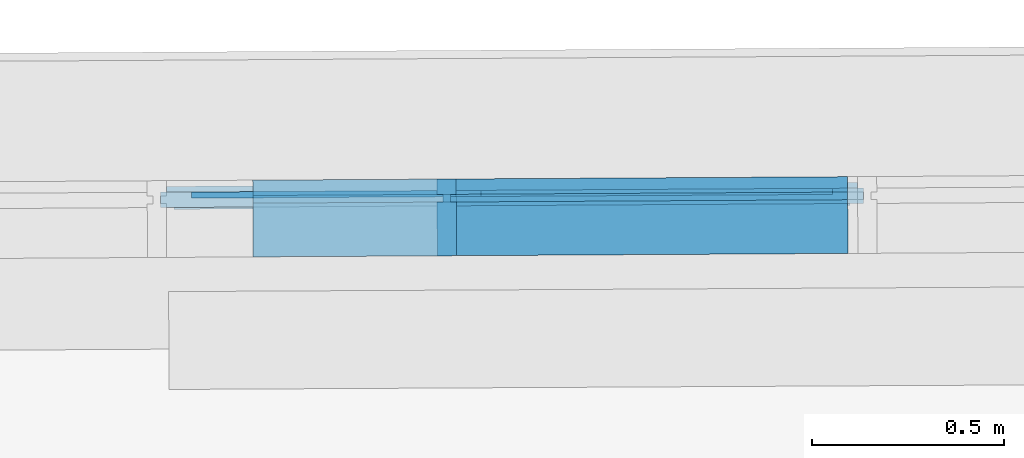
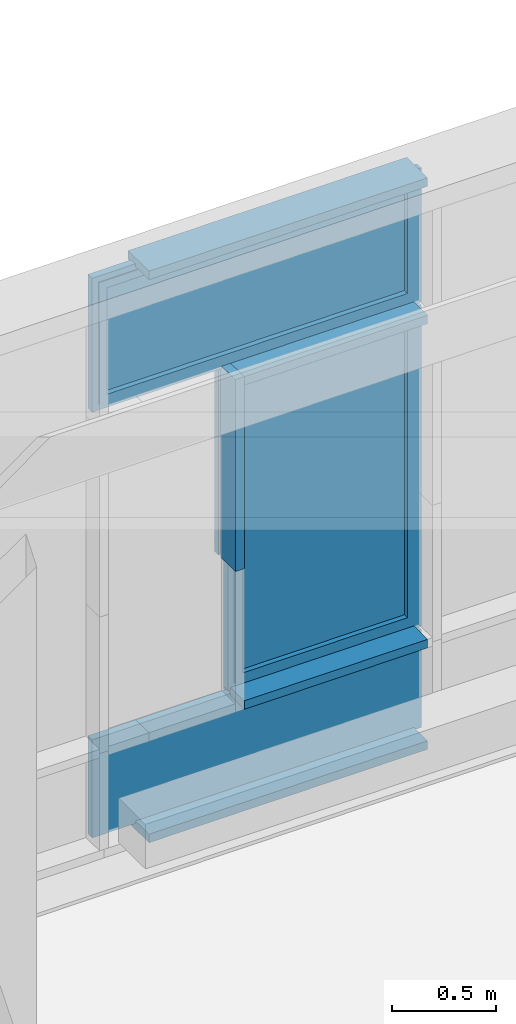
# One storey, part 103 of 158: 10 building element parts, 1 element without a shape of its own.
"""IFC2X3 building model written with IfcOpenShell, lengths in metres."""

from ifc_helpers import new_model, entity, si_unit, converted_unit, derived_unit, money_unit, direction, frame, origin_with_axes, place, context, subcontext, project, spatial, faceted_brep, material, type_object, element, aggregate, save


model = new_model("IFC2X3")

# Units and contexts
model_context = context("Model", 3, precision=1e-05, world=origin_with_axes(), true_north=direction((0.0, 1.0)))
body_context = subcontext(model_context, "Body", "Model", "MODEL_VIEW")
ifc_project = project(units=[si_unit("LENGTHUNIT", "METRE"), si_unit("AREAUNIT", "SQUARE_METRE"), si_unit("VOLUMEUNIT", "CUBIC_METRE"), converted_unit("PLANEANGLEUNIT", "DEGREE", entity("IfcPlaneAngleMeasure", 0.0174532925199), si_unit("PLANEANGLEUNIT", "RADIAN"), dimensions=[0, 0, 0, 0, 0, 0, 0]), money_unit("EUR"), converted_unit("TIMEUNIT", "Year", entity("IfcTimeMeasure", 31556926.0), si_unit("TIMEUNIT", "SECOND"), dimensions=[0, 0, 1, 0, 0, 0, 0]), si_unit("MASSUNIT", "GRAM", prefix="KILO"), si_unit("THERMODYNAMICTEMPERATUREUNIT", "DEGREE_CELSIUS"), si_unit("LUMINOUSINTENSITYUNIT", "LUMEN"), si_unit("ENERGYUNIT", "JOULE", prefix="MEGA"), derived_unit("THERMALCONDUCTANCEUNIT", [(si_unit("POWERUNIT", "WATT"), 1), (si_unit("LENGTHUNIT", "METRE"), -1), (si_unit("THERMODYNAMICTEMPERATUREUNIT", "KELVIN"), -1)]), derived_unit("SPECIFICHEATCAPACITYUNIT", [(si_unit("ENERGYUNIT", "JOULE"), 1), (si_unit("MASSUNIT", "GRAM", prefix="KILO"), -1), (si_unit("THERMODYNAMICTEMPERATUREUNIT", "KELVIN"), -1)]), derived_unit("MASSDENSITYUNIT", [(si_unit("MASSUNIT", "GRAM", prefix="KILO"), 1), (si_unit("VOLUMEUNIT", "CUBIC_METRE"), -1)])], contexts=[model_context])

# Site, building, storey
site_placement = place(None, origin_with_axes())
site = spatial("IfcSite", under=ifc_project, at=site_placement, Name="Gelände", CompositionType="ELEMENT")
building_placement = place(site_placement, origin_with_axes())
building = spatial("IfcBuilding", under=site, at=building_placement, Name="Gebäude", CompositionType="ELEMENT")
storey_placement = place(building_placement, origin_with_axes())
storey = spatial("IfcBuildingStorey", under=building, at=storey_placement, Name="ERDGESCHOSS", CompositionType="ELEMENT", Elevation=0.0)

# Proxy, building element parts
building_element_proxy_type = type_object("IfcBuildingElementProxyType", Name="Fassadentyp", PredefinedType="NOTDEFINED")
proxy_placement = place(storey_placement, frame((-22.8016333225, 53.9701805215, 1.34043904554), z_axis=(0.0, 0.0, 1.0), x_axis=(1.0, 0.0, 0.0)))
proxy = element("IfcBuildingElementProxy", 1, at=proxy_placement, inside=storey, type_object=building_element_proxy_type, Name="Fassade-002")
ifc_material_1 = material(Name="53_Metall, Aluminium")
building_element_part_1_placement = place(proxy_placement, origin_with_axes())
building_element_part_1 = element("IfcBuildingElementPart", 2, at=building_element_part_1_placement, material=ifc_material_1, Name="53_Metall, Aluminium", context=body_context, shape_type="Brep", body=[
    faceted_brep([(-0.319305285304, 0.0281384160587, 2.54500002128), (-2.12056874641, 0.0176339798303, 2.54500002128), (-2.12059790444, 0.0226338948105, 2.54500002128), (-0.319334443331, 0.033138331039, 2.54500002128), (-0.364304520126, 0.0278759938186, 2.59000002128), (-2.07556951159, 0.0178964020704, 2.59000002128), (-2.07559866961, 0.0228963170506, 2.59000002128), (-0.364333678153, 0.0328759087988, 2.59000002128)], [[[0, 1, 2, 3]], [[0, 4, 5, 1]], [[1, 5, 6, 2]], [[3, 2, 6, 7]], [[4, 0, 3, 7]], [[5, 4, 7, 6]]]),
    faceted_brep([(-2.12056874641, 0.0176339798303, 2.54500002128), (-2.12056874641, 0.0176339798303, 3.29999989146), (-2.12059790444, 0.0226338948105, 3.29999989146), (-2.12059790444, 0.0226338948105, 2.54500002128), (-2.07556951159, 0.0178964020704, 2.59000002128), (-2.07556951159, 0.0178964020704, 3.25499989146), (-2.07559866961, 0.0228963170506, 3.25499989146), (-2.07559866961, 0.0228963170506, 2.59000002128)], [[[0, 1, 2, 3]], [[0, 4, 5, 1]], [[1, 5, 6, 2]], [[3, 2, 6, 7]], [[4, 0, 3, 7]], [[5, 4, 7, 6]]]),
    faceted_brep([(-0.319305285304, 0.0281384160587, 3.29999989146), (-0.364304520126, 0.0278759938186, 3.25499989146), (-0.364333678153, 0.0328759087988, 3.25499989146), (-0.319334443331, 0.033138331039, 3.29999989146), (-2.12056874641, 0.0176339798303, 3.29999989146), (-2.07556951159, 0.0178964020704, 3.25499989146), (-2.07559866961, 0.0228963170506, 3.25499989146), (-2.12059790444, 0.0226338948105, 3.29999989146)], [[[0, 1, 2, 3]], [[0, 4, 5, 1]], [[1, 5, 6, 2]], [[3, 2, 6, 7]], [[4, 0, 3, 7]], [[5, 4, 7, 6]]]),
    faceted_brep([(-0.319305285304, 0.0281384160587, 2.54500002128), (-0.364304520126, 0.0278759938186, 2.59000002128), (-0.364333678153, 0.0328759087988, 2.59000002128), (-0.319334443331, 0.033138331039, 2.54500002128), (-0.319305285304, 0.0281384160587, 3.29999989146), (-0.364304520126, 0.0278759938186, 3.25499989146), (-0.364333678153, 0.0328759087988, 3.25499989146), (-0.319334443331, 0.033138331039, 3.29999989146)], [[[0, 1, 2, 3]], [[0, 4, 5, 1]], [[1, 5, 6, 2]], [[3, 2, 6, 7]], [[4, 0, 3, 7]], [[5, 4, 7, 6]]]),
    faceted_brep([(-0.319013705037, -0.0218607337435, 2.54500002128), (-2.12027716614, -0.032365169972, 2.54500002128), (-2.12056874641, 0.0176339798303, 2.54500002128), (-0.319305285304, 0.0281384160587, 2.54500002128), (-0.339013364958, -0.0219773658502, 2.56500002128), (-2.10027750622, -0.0322485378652, 2.56500002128), (-2.10056908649, 0.017750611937, 2.56500002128), (-0.339304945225, 0.028021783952, 2.56500002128)], [[[0, 1, 2, 3]], [[0, 4, 5, 1]], [[1, 5, 6, 2]], [[3, 2, 6, 7]], [[4, 0, 3, 7]], [[5, 4, 7, 6]]]),
    faceted_brep([(-2.12027716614, -0.032365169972, 2.54500002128), (-2.12027716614, -0.032365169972, 3.29999989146), (-2.12056874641, 0.0176339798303, 3.29999989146), (-2.12056874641, 0.0176339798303, 2.54500002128), (-2.10027750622, -0.0322485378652, 2.56500002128), (-2.10027750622, -0.0322485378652, 3.27999989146), (-2.10056908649, 0.017750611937, 3.27999989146), (-2.10056908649, 0.017750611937, 2.56500002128)], [[[0, 1, 2, 3]], [[0, 4, 5, 1]], [[1, 5, 6, 2]], [[3, 2, 6, 7]], [[4, 0, 3, 7]], [[5, 4, 7, 6]]]),
    faceted_brep([(-0.319013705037, -0.0218607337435, 3.29999989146), (-0.339013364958, -0.0219773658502, 3.27999989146), (-0.339304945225, 0.028021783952, 3.27999989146), (-0.319305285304, 0.0281384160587, 3.29999989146), (-2.12027716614, -0.032365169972, 3.29999989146), (-2.10027750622, -0.0322485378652, 3.27999989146), (-2.10056908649, 0.017750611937, 3.27999989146), (-2.12056874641, 0.0176339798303, 3.29999989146)], [[[0, 1, 2, 3]], [[0, 4, 5, 1]], [[1, 5, 6, 2]], [[3, 2, 6, 7]], [[4, 0, 3, 7]], [[5, 4, 7, 6]]]),
    faceted_brep([(-0.319013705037, -0.0218607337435, 2.54500002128), (-0.339013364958, -0.0219773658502, 2.56500002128), (-0.339304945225, 0.028021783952, 2.56500002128), (-0.319305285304, 0.0281384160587, 2.54500002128), (-0.319013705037, -0.0218607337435, 3.29999989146), (-0.339013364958, -0.0219773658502, 3.27999989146), (-0.339304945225, 0.028021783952, 3.27999989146), (-0.319305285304, 0.0281384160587, 3.29999989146)], [[[0, 1, 2, 3]], [[0, 4, 5, 1]], [[1, 5, 6, 2]], [[3, 2, 6, 7]], [[4, 0, 3, 7]], [[5, 4, 7, 6]]]),
    faceted_brep([(-0.304013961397, -0.0217732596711, 2.53000002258), (-2.13527690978, -0.0324526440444, 2.53000002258), (-2.135510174, 0.00754667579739, 2.53000002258), (-0.30424722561, 0.0182260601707, 2.53000002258), (-0.319013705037, -0.0218607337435, 2.54500002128), (-2.12027716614, -0.032365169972, 2.54500002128), (-2.12051043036, 0.00763414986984, 2.54500002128), (-0.319246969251, 0.0181385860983, 2.54500002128)], [[[0, 1, 2, 3]], [[0, 4, 5, 1]], [[1, 5, 6, 2]], [[3, 2, 6, 7]], [[4, 0, 3, 7]], [[5, 4, 7, 6]]]),
    faceted_brep([(-2.13527690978, -0.0324526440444, 2.53000002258), (-2.13527690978, -0.0324526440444, 3.31499989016), (-2.135510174, 0.00754667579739, 3.31499989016), (-2.135510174, 0.00754667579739, 2.53000002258), (-2.12027716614, -0.032365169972, 2.54500002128), (-2.12027716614, -0.032365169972, 3.29999989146), (-2.12051043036, 0.00763414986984, 3.29999989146), (-2.12051043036, 0.00763414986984, 2.54500002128)], [[[0, 1, 2, 3]], [[0, 4, 5, 1]], [[1, 5, 6, 2]], [[3, 2, 6, 7]], [[4, 0, 3, 7]], [[5, 4, 7, 6]]]),
    faceted_brep([(-2.13527690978, -0.0324526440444, 3.31499989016), (-0.304013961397, -0.0217732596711, 3.31499989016), (-0.30424722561, 0.0182260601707, 3.31499989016), (-2.135510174, 0.00754667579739, 3.31499989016), (-2.12027716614, -0.032365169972, 3.29999989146), (-0.319013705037, -0.0218607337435, 3.29999989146), (-0.319246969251, 0.0181385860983, 3.29999989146), (-2.12051043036, 0.00763414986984, 3.29999989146)], [[[0, 1, 2, 3]], [[0, 4, 5, 1]], [[1, 5, 6, 2]], [[3, 2, 6, 7]], [[4, 0, 3, 7]], [[5, 4, 7, 6]]]),
    faceted_brep([(-0.304013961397, -0.0217732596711, 3.31499989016), (-0.304013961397, -0.0217732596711, 2.53000002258), (-0.30424722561, 0.0182260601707, 2.53000002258), (-0.30424722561, 0.0182260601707, 3.31499989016), (-0.319013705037, -0.0218607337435, 3.29999989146), (-0.319013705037, -0.0218607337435, 2.54500002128), (-0.319246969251, 0.0181385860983, 2.54500002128), (-0.319246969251, 0.0181385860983, 3.29999989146)], [[[0, 1, 2, 3]], [[0, 4, 5, 1]], [[1, 5, 6, 2]], [[3, 2, 6, 7]], [[4, 0, 3, 7]], [[5, 4, 7, 6]]]),
    faceted_brep([(-0.384304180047, 0.0277593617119, 2.61000002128), (-0.383983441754, -0.0272397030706, 2.61000002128), (-0.383983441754, -0.0272397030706, 3.23499989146), (-0.384304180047, 0.0277593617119, 3.23499989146), (-0.339304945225, 0.028021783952, 2.56500002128), (-0.338984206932, -0.0269772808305, 2.56500002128), (-0.338984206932, -0.0269772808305, 3.27999989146), (-0.339304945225, 0.028021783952, 3.27999989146)], [[[0, 1, 2, 3]], [[4, 5, 1, 0]], [[1, 5, 6, 2]], [[3, 2, 6, 7]], [[0, 3, 7, 4]], [[7, 6, 5, 4]]]),
    faceted_brep([(-2.10056908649, 0.017750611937, 2.56500002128), (-2.1002483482, -0.0372484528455, 2.56500002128), (-2.1002483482, -0.0372484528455, 3.27999989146), (-2.10056908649, 0.017750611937, 3.27999989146), (-2.05556985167, 0.0180130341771, 2.61000002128), (-2.05524911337, -0.0369860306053, 2.61000002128), (-2.05524911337, -0.0369860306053, 3.23499989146), (-2.05556985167, 0.0180130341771, 3.23499989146)], [[[0, 1, 2, 3]], [[4, 5, 1, 0]], [[1, 5, 6, 2]], [[3, 2, 6, 7]], [[0, 3, 7, 4]], [[7, 6, 5, 4]]]),
    faceted_brep([(-2.10056908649, 0.017750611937, 2.56500002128), (-2.1002483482, -0.0372484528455, 2.56500002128), (-2.05524911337, -0.0369860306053, 2.61000002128), (-2.05556985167, 0.0180130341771, 2.61000002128), (-0.339304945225, 0.028021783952, 2.56500002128), (-0.338984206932, -0.0269772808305, 2.56500002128), (-0.383983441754, -0.0272397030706, 2.61000002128), (-0.384304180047, 0.0277593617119, 2.61000002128)], [[[0, 1, 2, 3]], [[4, 5, 1, 0]], [[1, 5, 6, 2]], [[3, 2, 6, 7]], [[0, 3, 7, 4]], [[7, 6, 5, 4]]]),
    faceted_brep([(-0.339304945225, 0.028021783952, 3.27999989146), (-0.338984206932, -0.0269772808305, 3.27999989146), (-0.383983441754, -0.0272397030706, 3.23499989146), (-0.384304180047, 0.0277593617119, 3.23499989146), (-2.10056908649, 0.017750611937, 3.27999989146), (-2.1002483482, -0.0372484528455, 3.27999989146), (-2.05524911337, -0.0369860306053, 3.23499989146), (-2.05556985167, 0.0180130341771, 3.23499989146)], [[[0, 1, 2, 3]], [[4, 5, 1, 0]], [[1, 5, 6, 2]], [[3, 2, 6, 7]], [[0, 3, 7, 4]], [[7, 6, 5, 4]]]),
])
ifc_material_2 = material(Name="45_Glas, Normalglas")
building_element_part_2_placement = place(proxy_placement, origin_with_axes())
building_element_part_2 = element("IfcBuildingElementPart", 3, at=building_element_part_2_placement, material=ifc_material_2, Name="45_Glas, Normalglas", context=body_context, shape_type="Brep", body=[
    faceted_brep([(-0.384245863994, 0.0177595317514, 2.61000002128), (-0.384152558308, 0.00175980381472, 2.61000002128), (-2.05541822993, -0.00798652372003, 2.61000002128), (-2.05551153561, 0.0080132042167, 2.61000002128), (-0.384245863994, 0.0177595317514, 3.23499989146), (-0.384152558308, 0.00175980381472, 3.23499989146), (-2.05541822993, -0.00798652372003, 3.23499989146), (-2.05551153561, 0.0080132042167, 3.23499989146)], [[[0, 1, 2, 3]], [[4, 5, 1, 0]], [[1, 5, 6, 2]], [[3, 2, 6, 7]], [[0, 3, 7, 4]], [[7, 6, 5, 4]]]),
])
building_element_part_3_placement = place(proxy_placement, origin_with_axes())
building_element_part_3 = element("IfcBuildingElementPart", 4, at=building_element_part_3_placement, material=ifc_material_2, Name="45_Glas, Normalglas", context=body_context, shape_type="Brep", body=[
    faceted_brep([(-2.13527690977, -0.0324526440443, 0.610000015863), (-1.89492793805, -0.0310509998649, 0.610000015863), (-1.89516120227, 0.00894831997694, 0.610000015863), (-2.13551017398, 0.00754667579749, 0.610000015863), (-2.13527690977, -0.0324526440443, 0.034999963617), (-1.89492793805, -0.0310509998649, 0.034999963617), (-0.344954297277, -0.022012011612, 0.034999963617), (-0.30401395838, -0.0217732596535, 0.034999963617), (-0.30401395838, -0.0217732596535, 0.610000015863), (-0.344954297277, -0.022012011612, 0.610000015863), (-1.38989815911, -0.0281058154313, 0.610000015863), (-1.39013142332, 0.0118935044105, 0.610000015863), (-0.34518756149, 0.0179873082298, 0.610000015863), (-0.304247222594, 0.0182260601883, 0.610000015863), (-0.304247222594, 0.0182260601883, 0.034999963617), (-0.34518756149, 0.0179873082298, 0.034999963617), (-1.89516120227, 0.00894831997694, 0.034999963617), (-2.13551017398, 0.00754667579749, 0.034999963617)], [[[0, 1, 2, 3]], [[0, 4, 5, 6, 7, 8, 9, 10, 1]], [[1, 10, 11, 2]], [[3, 2, 11, 12, 13, 14, 15, 16, 17]], [[4, 0, 3, 17]], [[5, 4, 17, 16]], [[6, 5, 16, 15]], [[7, 6, 15, 14]], [[8, 7, 14, 13]], [[9, 8, 13, 12]], [[10, 9, 12, 11]]]),
])
building_element_part_4_placement = place(proxy_placement, origin_with_axes())
building_element_part_4 = element("IfcBuildingElementPart", 5, at=building_element_part_4_placement, material=ifc_material_1, Name="53_Metall, Aluminium", context=body_context, shape_type="Brep", body=[
    faceted_brep([(-0.319305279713, 0.0281384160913, 0.64500002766), (-1.36519017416, 0.0220391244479, 0.64500002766), (-1.36521933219, 0.0270390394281, 0.64500002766), (-0.31933443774, 0.0331383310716, 0.64500002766), (-0.364304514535, 0.0278759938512, 0.69000002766), (-1.32019093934, 0.022301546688, 0.69000002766), (-1.32022009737, 0.0273014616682, 0.69000002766), (-0.364333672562, 0.0328759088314, 0.69000002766)], [[[0, 1, 2, 3]], [[0, 4, 5, 1]], [[1, 5, 6, 2]], [[3, 2, 6, 7]], [[4, 0, 3, 7]], [[5, 4, 7, 6]]]),
    faceted_brep([(-1.36519017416, 0.0220391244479, 0.64500002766), (-1.36519017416, 0.0220391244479, 2.49500000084), (-1.36521933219, 0.0270390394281, 2.49500000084), (-1.36521933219, 0.0270390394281, 0.64500002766), (-1.32019093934, 0.022301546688, 0.69000002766), (-1.32019093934, 0.022301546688, 2.45000000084), (-1.32022009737, 0.0273014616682, 2.45000000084), (-1.32022009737, 0.0273014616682, 0.69000002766)], [[[0, 1, 2, 3]], [[0, 4, 5, 1]], [[1, 5, 6, 2]], [[3, 2, 6, 7]], [[4, 0, 3, 7]], [[5, 4, 7, 6]]]),
    faceted_brep([(-0.319305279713, 0.0281384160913, 2.49500000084), (-0.364304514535, 0.0278759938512, 2.45000000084), (-0.364333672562, 0.0328759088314, 2.45000000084), (-0.31933443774, 0.0331383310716, 2.49500000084), (-1.36519017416, 0.0220391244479, 2.49500000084), (-1.32019093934, 0.022301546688, 2.45000000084), (-1.32022009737, 0.0273014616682, 2.45000000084), (-1.36521933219, 0.0270390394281, 2.49500000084)], [[[0, 1, 2, 3]], [[0, 4, 5, 1]], [[1, 5, 6, 2]], [[3, 2, 6, 7]], [[4, 0, 3, 7]], [[5, 4, 7, 6]]]),
    faceted_brep([(-0.319305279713, 0.0281384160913, 0.64500002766), (-0.364304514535, 0.0278759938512, 0.69000002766), (-0.364333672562, 0.0328759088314, 0.69000002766), (-0.31933443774, 0.0331383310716, 0.64500002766), (-0.319305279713, 0.0281384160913, 2.49500000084), (-0.364304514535, 0.0278759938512, 2.45000000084), (-0.364333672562, 0.0328759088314, 2.45000000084), (-0.31933443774, 0.0331383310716, 2.49500000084)], [[[0, 1, 2, 3]], [[0, 4, 5, 1]], [[1, 5, 6, 2]], [[3, 2, 6, 7]], [[4, 0, 3, 7]], [[5, 4, 7, 6]]]),
    faceted_brep([(-0.319013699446, -0.0218607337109, 0.64500002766), (-1.3648985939, -0.0279600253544, 0.64500002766), (-1.36519017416, 0.0220391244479, 0.64500002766), (-0.319305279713, 0.0281384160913, 0.64500002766), (-0.339013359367, -0.0219773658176, 0.66500002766), (-1.34489893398, -0.0278433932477, 0.66500002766), (-1.34519051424, 0.0221557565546, 0.66500002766), (-0.339304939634, 0.0280217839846, 0.66500002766)], [[[0, 1, 2, 3]], [[0, 4, 5, 1]], [[1, 5, 6, 2]], [[3, 2, 6, 7]], [[4, 0, 3, 7]], [[5, 4, 7, 6]]]),
    faceted_brep([(-1.3648985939, -0.0279600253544, 0.64500002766), (-1.3648985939, -0.0279600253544, 2.49500000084), (-1.36519017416, 0.0220391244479, 2.49500000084), (-1.36519017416, 0.0220391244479, 0.64500002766), (-1.34489893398, -0.0278433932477, 0.66500002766), (-1.34489893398, -0.0278433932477, 2.47500000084), (-1.34519051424, 0.0221557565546, 2.47500000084), (-1.34519051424, 0.0221557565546, 0.66500002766)], [[[0, 1, 2, 3]], [[0, 4, 5, 1]], [[1, 5, 6, 2]], [[3, 2, 6, 7]], [[4, 0, 3, 7]], [[5, 4, 7, 6]]]),
    faceted_brep([(-0.319013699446, -0.0218607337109, 2.49500000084), (-0.339013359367, -0.0219773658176, 2.47500000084), (-0.339304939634, 0.0280217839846, 2.47500000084), (-0.319305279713, 0.0281384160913, 2.49500000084), (-1.3648985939, -0.0279600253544, 2.49500000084), (-1.34489893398, -0.0278433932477, 2.47500000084), (-1.34519051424, 0.0221557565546, 2.47500000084), (-1.36519017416, 0.0220391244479, 2.49500000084)], [[[0, 1, 2, 3]], [[0, 4, 5, 1]], [[1, 5, 6, 2]], [[3, 2, 6, 7]], [[4, 0, 3, 7]], [[5, 4, 7, 6]]]),
    faceted_brep([(-0.319013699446, -0.0218607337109, 0.64500002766), (-0.339013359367, -0.0219773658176, 0.66500002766), (-0.339304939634, 0.0280217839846, 0.66500002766), (-0.319305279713, 0.0281384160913, 0.64500002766), (-0.319013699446, -0.0218607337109, 2.49500000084), (-0.339013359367, -0.0219773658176, 2.47500000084), (-0.339304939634, 0.0280217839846, 2.47500000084), (-0.319305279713, 0.0281384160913, 2.49500000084)], [[[0, 1, 2, 3]], [[0, 4, 5, 1]], [[1, 5, 6, 2]], [[3, 2, 6, 7]], [[4, 0, 3, 7]], [[5, 4, 7, 6]]]),
    faceted_brep([(-0.304013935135, -0.0217732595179, 0.630000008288), (-1.3798983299, -0.0280474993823, 0.630000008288), (-1.38013159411, 0.0119518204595, 0.630000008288), (-0.304247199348, 0.0182260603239, 0.630000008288), (-0.319013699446, -0.0218607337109, 0.64500002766), (-1.3648985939, -0.0279600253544, 0.64500002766), (-1.36513185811, 0.0120392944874, 0.64500002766), (-0.31924696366, 0.0181385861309, 0.64500002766)], [[[0, 1, 2, 3]], [[0, 4, 5, 1]], [[1, 5, 6, 2]], [[3, 2, 6, 7]], [[4, 0, 3, 7]], [[5, 4, 7, 6]]]),
    faceted_brep([(-1.3798983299, -0.0280474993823, 0.630000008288), (-1.3798983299, -0.0280474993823, 2.51000002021), (-1.38013159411, 0.0119518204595, 2.51000002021), (-1.38013159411, 0.0119518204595, 0.630000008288), (-1.3648985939, -0.0279600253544, 0.64500002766), (-1.3648985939, -0.0279600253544, 2.49500000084), (-1.36513185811, 0.0120392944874, 2.49500000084), (-1.36513185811, 0.0120392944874, 0.64500002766)], [[[0, 1, 2, 3]], [[0, 4, 5, 1]], [[1, 5, 6, 2]], [[3, 2, 6, 7]], [[4, 0, 3, 7]], [[5, 4, 7, 6]]]),
    faceted_brep([(-1.3798983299, -0.0280474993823, 2.51000002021), (-0.304013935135, -0.0217732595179, 2.51000002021), (-0.304247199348, 0.0182260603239, 2.51000002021), (-1.38013159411, 0.0119518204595, 2.51000002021), (-1.3648985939, -0.0279600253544, 2.49500000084), (-0.319013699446, -0.0218607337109, 2.49500000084), (-0.31924696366, 0.0181385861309, 2.49500000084), (-1.36513185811, 0.0120392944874, 2.49500000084)], [[[0, 1, 2, 3]], [[0, 4, 5, 1]], [[1, 5, 6, 2]], [[3, 2, 6, 7]], [[4, 0, 3, 7]], [[5, 4, 7, 6]]]),
    faceted_brep([(-0.304013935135, -0.0217732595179, 2.51000002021), (-0.304013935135, -0.0217732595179, 0.630000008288), (-0.304247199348, 0.0182260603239, 0.630000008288), (-0.304247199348, 0.0182260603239, 2.51000002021), (-0.319013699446, -0.0218607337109, 2.49500000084), (-0.319013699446, -0.0218607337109, 0.64500002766), (-0.31924696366, 0.0181385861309, 0.64500002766), (-0.31924696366, 0.0181385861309, 2.49500000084)], [[[0, 1, 2, 3]], [[0, 4, 5, 1]], [[1, 5, 6, 2]], [[3, 2, 6, 7]], [[4, 0, 3, 7]], [[5, 4, 7, 6]]]),
    faceted_brep([(-0.384304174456, 0.0277593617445, 0.71000002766), (-0.383983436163, -0.027239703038, 0.71000002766), (-0.383983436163, -0.027239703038, 2.43000000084), (-0.384304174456, 0.0277593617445, 2.43000000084), (-0.339304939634, 0.0280217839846, 0.66500002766), (-0.338984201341, -0.0269772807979, 0.66500002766), (-0.338984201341, -0.0269772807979, 2.47500000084), (-0.339304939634, 0.0280217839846, 2.47500000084)], [[[0, 1, 2, 3]], [[4, 5, 1, 0]], [[1, 5, 6, 2]], [[3, 2, 6, 7]], [[0, 3, 7, 4]], [[7, 6, 5, 4]]]),
    faceted_brep([(-1.34519051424, 0.0221557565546, 0.66500002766), (-1.34486977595, -0.0328433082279, 0.66500002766), (-1.34486977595, -0.0328433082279, 2.47500000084), (-1.34519051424, 0.0221557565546, 2.47500000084), (-1.30019127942, 0.0224181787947, 0.71000002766), (-1.29987054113, -0.0325808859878, 0.71000002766), (-1.29987054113, -0.0325808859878, 2.43000000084), (-1.30019127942, 0.0224181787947, 2.43000000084)], [[[0, 1, 2, 3]], [[4, 5, 1, 0]], [[1, 5, 6, 2]], [[3, 2, 6, 7]], [[0, 3, 7, 4]], [[7, 6, 5, 4]]]),
    faceted_brep([(-1.34519051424, 0.0221557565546, 0.66500002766), (-1.34486977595, -0.0328433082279, 0.66500002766), (-1.29987054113, -0.0325808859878, 0.71000002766), (-1.30019127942, 0.0224181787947, 0.71000002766), (-0.339304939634, 0.0280217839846, 0.66500002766), (-0.338984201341, -0.0269772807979, 0.66500002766), (-0.383983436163, -0.027239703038, 0.71000002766), (-0.384304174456, 0.0277593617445, 0.71000002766)], [[[0, 1, 2, 3]], [[4, 5, 1, 0]], [[1, 5, 6, 2]], [[3, 2, 6, 7]], [[0, 3, 7, 4]], [[7, 6, 5, 4]]]),
    faceted_brep([(-0.339304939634, 0.0280217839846, 2.47500000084), (-0.338984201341, -0.0269772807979, 2.47500000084), (-0.383983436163, -0.027239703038, 2.43000000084), (-0.384304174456, 0.0277593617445, 2.43000000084), (-1.34519051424, 0.0221557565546, 2.47500000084), (-1.34486977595, -0.0328433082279, 2.47500000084), (-1.29987054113, -0.0325808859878, 2.43000000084), (-1.30019127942, 0.0224181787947, 2.43000000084)], [[[0, 1, 2, 3]], [[4, 5, 1, 0]], [[1, 5, 6, 2]], [[3, 2, 6, 7]], [[0, 3, 7, 4]], [[7, 6, 5, 4]]]),
])
building_element_part_5_placement = place(proxy_placement, origin_with_axes())
building_element_part_5 = element("IfcBuildingElementPart", 6, at=building_element_part_5_placement, material=ifc_material_2, Name="45_Glas, Normalglas", context=body_context, shape_type="Brep", body=[
    faceted_brep([(-0.384245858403, 0.017759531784, 0.71000002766), (-0.384152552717, 0.00175980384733, 0.71000002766), (-1.30003965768, -0.00358137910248, 0.71000002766), (-1.30013296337, 0.0124183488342, 0.71000002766), (-0.384245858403, 0.017759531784, 2.43000000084), (-0.384152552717, 0.00175980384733, 2.43000000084), (-1.30003965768, -0.00358137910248, 2.43000000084), (-1.30013296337, 0.0124183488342, 2.43000000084)], [[[0, 1, 2, 3]], [[4, 5, 1, 0]], [[1, 5, 6, 2]], [[3, 2, 6, 7]], [[0, 3, 7, 4]], [[7, 6, 5, 4]]]),
])
building_element_part_6_placement = place(proxy_placement, origin_with_axes())
building_element_part_6 = element("IfcBuildingElementPart", 7, at=building_element_part_6_placement, material=ifc_material_1, Name="53_Metall, Aluminium", context=body_context, shape_type="Brep", body=[
    faceted_brep([(-1.89498624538, -0.0210511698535, 0.0349999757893), (-1.89510287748, -0.00105150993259, 0.0349999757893), (-1.89510287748, -0.00105150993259, 0.0499999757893), (-1.8953361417, 0.0389478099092, 0.0499999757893), (-1.8953361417, 0.0389478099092, -2.42107287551e-08), (-1.89416982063, -0.1610487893, -2.42107287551e-08), (-1.89416982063, -0.1610487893, 0.0499999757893), (-1.89498624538, -0.0210511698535, 0.0499999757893), (-0.345012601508, -0.0120121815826, 0.0349999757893), (-0.345129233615, 0.00798747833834, 0.0349999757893), (-0.345129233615, 0.00798747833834, 0.0499999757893), (-0.345362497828, 0.0479867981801, 0.0499999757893), (-0.345362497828, 0.0479867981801, -2.42107287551e-08), (-0.344196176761, -0.152009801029, -2.42107287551e-08), (-0.344196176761, -0.152009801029, 0.0499999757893), (-0.345012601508, -0.0120121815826, 0.0499999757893)], [[[0, 1, 2, 3, 4, 5, 6, 7]], [[1, 0, 8, 9]], [[10, 2, 1, 9]], [[2, 10, 11, 3]], [[12, 4, 3, 11]], [[13, 5, 4, 12]], [[14, 6, 5, 13]], [[15, 7, 6, 14]], [[0, 7, 15, 8]], [[8, 15, 14, 13, 12, 11, 10, 9]]]),
])
building_element_part_7_placement = place(proxy_placement, origin_with_axes())
building_element_part_7 = element("IfcBuildingElementPart", 8, at=building_element_part_7_placement, material=ifc_material_1, Name="53_Metall, Aluminium", context=body_context, shape_type="Brep", body=[
    faceted_brep([(-1.89498624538, -0.0210511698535, 3.31499988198), (-1.89498624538, -0.0210511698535, 3.29999988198), (-1.89416982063, -0.1610487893, 3.29999988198), (-1.89416982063, -0.1610487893, 3.34999988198), (-1.8953361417, 0.0389478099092, 3.34999988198), (-1.8953361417, 0.0389478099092, 3.29999988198), (-1.89510287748, -0.00105150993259, 3.29999988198), (-1.89510287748, -0.00105150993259, 3.31499988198), (-0.345012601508, -0.0120121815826, 3.31499988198), (-0.345012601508, -0.0120121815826, 3.29999988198), (-0.344196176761, -0.152009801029, 3.29999988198), (-0.344196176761, -0.152009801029, 3.34999988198), (-0.345362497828, 0.0479867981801, 3.34999988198), (-0.345362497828, 0.0479867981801, 3.29999988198), (-0.345129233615, 0.00798747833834, 3.29999988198), (-0.345129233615, 0.00798747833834, 3.31499988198)], [[[0, 1, 2, 3, 4, 5, 6, 7]], [[0, 8, 9, 1]], [[9, 10, 2, 1]], [[10, 11, 3, 2]], [[11, 12, 4, 3]], [[12, 13, 5, 4]], [[6, 5, 13, 14]], [[14, 15, 7, 6]], [[7, 15, 8, 0]], [[8, 15, 14, 13, 12, 11, 10, 9]]]),
])
building_element_part_8_placement = place(proxy_placement, origin_with_axes())
building_element_part_8 = element("IfcBuildingElementPart", 9, at=building_element_part_8_placement, material=ifc_material_1, Name="53_Metall, Aluminium", context=body_context, shape_type="Brep", body=[
    faceted_brep([(-1.39995629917, -0.0181643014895, 2.54500001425), (-1.41495604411, -0.0182517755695, 2.54500001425), (-1.41413961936, -0.158249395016, 2.54500001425), (-1.36414046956, -0.157957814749, 2.54500001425), (-1.36495689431, -0.0179601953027, 2.54500001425), (-1.37995663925, -0.0180476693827, 2.54500001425), (-1.38007327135, 0.00195199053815, 2.54500001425), (-1.36507352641, 0.00203946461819, 2.54500001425), (-1.36530679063, 0.04203878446, 2.54500001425), (-1.41530594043, 0.0417472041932, 2.54500001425), (-1.41507267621, 0.00174788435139, 2.54500001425), (-1.40007293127, 0.00183535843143, 2.54500001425), (-1.39995629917, -0.0181643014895, 1.42000001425), (-1.41495604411, -0.0182517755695, 1.42000001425), (-1.41413961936, -0.158249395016, 1.42000001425), (-1.36414046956, -0.157957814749, 1.42000001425), (-1.36495689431, -0.0179601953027, 1.42000001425), (-1.37995663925, -0.0180476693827, 1.42000001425), (-1.38007327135, 0.00195199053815, 1.42000001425), (-1.36507352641, 0.00203946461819, 1.42000001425), (-1.36530679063, 0.04203878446, 1.42000001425), (-1.41530594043, 0.0417472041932, 1.42000001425), (-1.41507267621, 0.00174788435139, 1.42000001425), (-1.40007293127, 0.00183535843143, 1.42000001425)], [[[0, 1, 2, 3, 4, 5, 6, 7, 8, 9, 10, 11]], [[1, 0, 12, 13]], [[1, 13, 14, 2]], [[3, 2, 14, 15]], [[4, 3, 15, 16]], [[4, 16, 17, 5]], [[5, 17, 18, 6]], [[7, 6, 18, 19]], [[19, 20, 8, 7]], [[9, 8, 20, 21]], [[22, 10, 9, 21]], [[11, 10, 22, 23]], [[0, 11, 23, 12]], [[23, 22, 21, 20, 19, 18, 17, 16, 15, 14, 13, 12]]]),
])
building_element_part_9_placement = place(proxy_placement, origin_with_axes())
building_element_part_9 = element("IfcBuildingElementPart", 10, at=building_element_part_9_placement, material=ifc_material_1, Name="53_Metall, Aluminium", context=body_context, shape_type="Brep", body=[
    faceted_brep([(-1.36495688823, -0.0179601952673, 2.51000001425), (-1.36495688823, -0.0179601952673, 2.49500001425), (-1.36414046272, -0.157957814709, 2.49500001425), (-1.36414046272, -0.157957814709, 2.54500001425), (-1.36495688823, -0.0179601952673, 2.54500001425), (-1.36495688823, -0.0179601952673, 2.53000001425), (-1.36507352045, 0.00203946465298, 2.53000001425), (-1.36507352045, 0.00203946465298, 2.54500001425), (-1.36530678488, 0.0420387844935, 2.54500001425), (-1.36530678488, 0.0420387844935, 2.49500001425), (-1.36507352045, 0.00203946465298, 2.49500001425), (-1.36507352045, 0.00203946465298, 2.51000001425), (-0.345012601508, -0.0120121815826, 2.51000001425), (-0.345012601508, -0.0120121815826, 2.49500001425), (-0.344196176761, -0.152009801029, 2.49500001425), (-0.344196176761, -0.152009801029, 2.54500001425), (-0.345012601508, -0.0120121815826, 2.54500001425), (-0.345012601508, -0.0120121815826, 2.53000001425), (-0.345129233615, 0.00798747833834, 2.53000001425), (-0.345129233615, 0.00798747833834, 2.54500001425), (-0.345362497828, 0.0479867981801, 2.54500001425), (-0.345362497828, 0.0479867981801, 2.49500001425), (-0.345129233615, 0.00798747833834, 2.49500001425), (-0.345129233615, 0.00798747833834, 2.51000001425)], [[[0, 1, 2, 3, 4, 5, 6, 7, 8, 9, 10, 11]], [[1, 0, 12, 13]], [[1, 13, 14, 2]], [[3, 2, 14, 15]], [[4, 3, 15, 16]], [[4, 16, 17, 5]], [[5, 17, 18, 6]], [[7, 6, 18, 19]], [[19, 20, 8, 7]], [[9, 8, 20, 21]], [[22, 10, 9, 21]], [[11, 10, 22, 23]], [[0, 11, 23, 12]], [[23, 22, 21, 20, 19, 18, 17, 16, 15, 14, 13, 12]]]),
])
building_element_part_10_placement = place(proxy_placement, origin_with_axes())
building_element_part_10 = element("IfcBuildingElementPart", 11, at=building_element_part_10_placement, material=ifc_material_1, Name="53_Metall, Aluminium", context=body_context, shape_type="Brep", body=[
    faceted_brep([(-1.36495688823, -0.0179601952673, 0.610000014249), (-1.36495688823, -0.0179601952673, 0.595000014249), (-1.36414046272, -0.157957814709, 0.595000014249), (-1.36414046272, -0.157957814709, 0.645000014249), (-1.36495688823, -0.0179601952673, 0.645000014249), (-1.36495688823, -0.0179601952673, 0.630000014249), (-1.36507352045, 0.00203946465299, 0.630000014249), (-1.36507352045, 0.00203946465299, 0.645000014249), (-1.36530678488, 0.0420387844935, 0.645000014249), (-1.36530678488, 0.0420387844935, 0.595000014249), (-1.36507352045, 0.00203946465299, 0.595000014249), (-1.36507352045, 0.00203946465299, 0.610000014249), (-0.345012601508, -0.0120121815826, 0.610000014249), (-0.345012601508, -0.0120121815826, 0.595000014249), (-0.344196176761, -0.152009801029, 0.595000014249), (-0.344196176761, -0.152009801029, 0.645000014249), (-0.345012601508, -0.0120121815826, 0.645000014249), (-0.345012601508, -0.0120121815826, 0.630000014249), (-0.345129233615, 0.00798747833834, 0.630000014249), (-0.345129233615, 0.00798747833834, 0.645000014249), (-0.345362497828, 0.0479867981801, 0.645000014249), (-0.345362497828, 0.0479867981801, 0.595000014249), (-0.345129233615, 0.00798747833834, 0.595000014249), (-0.345129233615, 0.00798747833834, 0.610000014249)], [[[0, 1, 2, 3, 4, 5, 6, 7, 8, 9, 10, 11]], [[1, 0, 12, 13]], [[1, 13, 14, 2]], [[3, 2, 14, 15]], [[4, 3, 15, 16]], [[4, 16, 17, 5]], [[5, 17, 18, 6]], [[7, 6, 18, 19]], [[19, 20, 8, 7]], [[9, 8, 20, 21]], [[22, 10, 9, 21]], [[11, 10, 22, 23]], [[0, 11, 23, 12]], [[23, 22, 21, 20, 19, 18, 17, 16, 15, 14, 13, 12]]]),
])
aggregate(proxy, [building_element_part_1, building_element_part_2, building_element_part_3, building_element_part_4, building_element_part_5, building_element_part_6, building_element_part_7, building_element_part_8, building_element_part_9, building_element_part_10])

save(model, "model.ifc")
